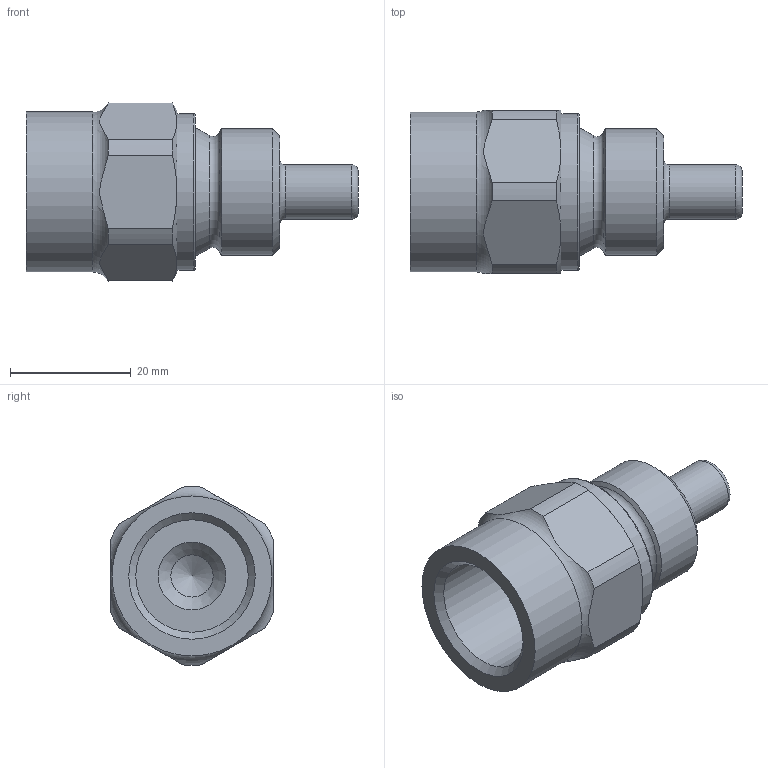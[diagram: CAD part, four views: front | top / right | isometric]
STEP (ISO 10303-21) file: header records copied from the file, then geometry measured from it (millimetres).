
FILE_DESCRIPTION( ( 'STEP AP203' ), ' ' );
FILE_NAME( 'p:/temp/worker_173/4124_4340/app_50_02016062311542105053248192d056f_000000_00_00_000000/format_1/E37600.stp', '2016-06-23T09:54:21', ( '' ), ( '' ), ' ', 'PARTsolutions', ' ' );
FILE_SCHEMA( ( 'CONFIG_CONTROL_DESIGN' ) );
Length unit declared in the file: millimetre
Products named in the file (1): _E37600
Bounding box: 55 x 27 x 29.59 mm (x, y, z)
Volume: 15147.6 mm3; surface area: 6596.4 mm2
Topology: 1 solids, 1 shells, 41 faces, 89 edges, 54 vertices
Faces by surface type: cone 12, plane 12, cylinder 12, torus 5
Full cylindrical faces by diameter (mm): 7 x1, 9 x1, 18.631 x1, 20.955 x1, 26 x1, 26.5 x1
Entity records: 1204 total; most frequent: CARTESIAN_POINT 353, DIRECTION 174, ORIENTED_EDGE 138, AXIS2_PLACEMENT_3D 81, EDGE_CURVE 69, EDGE_LOOP 62, FACE_OUTER_BOUND 52, VERTEX_POINT 52
